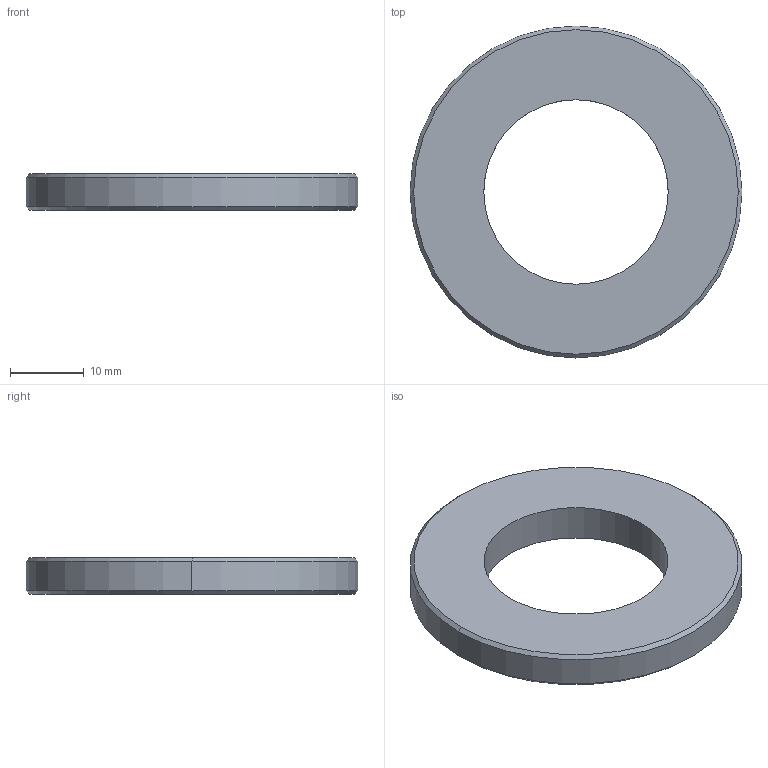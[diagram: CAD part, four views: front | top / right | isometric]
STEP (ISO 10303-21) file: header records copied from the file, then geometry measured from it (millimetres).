
FILE_DESCRIPTION(('CATIA V5 STEP Exchange'),'2;1');
FILE_NAME('D:\姚明阳\1、工装图纸\气囊线机加工零件\LS240508.stp','2024-05-30T08:21:29+00:00',('none'),('none'),'CATIA Version 5 Release 21 GA (IN-10)','CATIA V5 STEP AP214','none');
FILE_SCHEMA(('AUTOMOTIVE_DESIGN { 1 0 10303 214 1 1 1 1 }'));
Length unit declared in the file: millimetre
Products named in the file (1): Part2
Bounding box: 45 x 45 x 5 mm (x, y, z)
Volume: 5462.7 mm3; surface area: 3215.2 mm2
Topology: 1 solids, 1 shells, 10 faces, 20 edges, 12 vertices
Faces by surface type: cylinder 4, cone 4, plane 2
Entity records: 268 total; most frequent: CARTESIAN_POINT 41, ORIENTED_EDGE 40, DIRECTION 36, AXIS2_PLACEMENT_3D 21, EDGE_CURVE 20, CIRCLE 12, EDGE_LOOP 12, VERTEX_POINT 12
